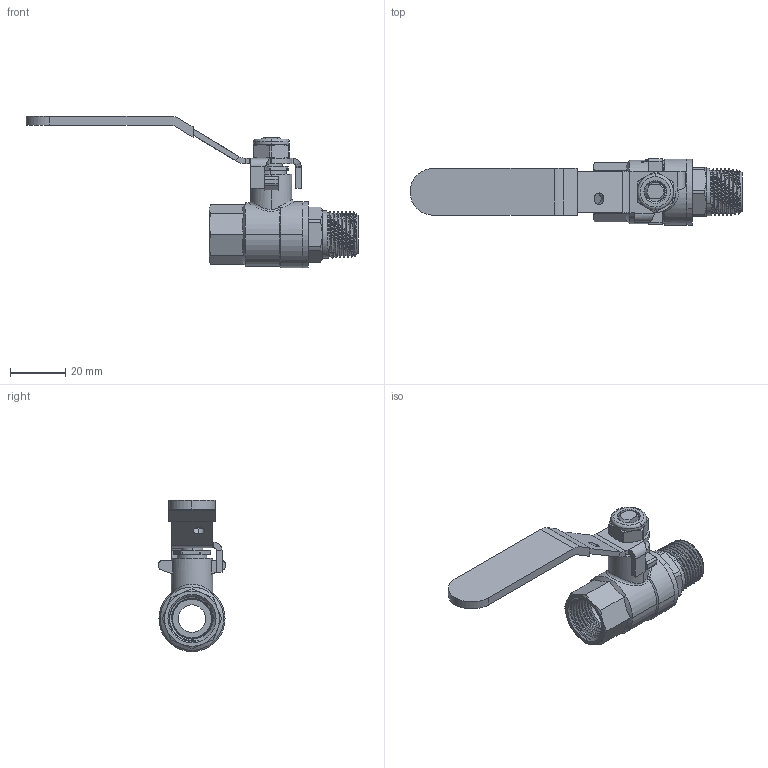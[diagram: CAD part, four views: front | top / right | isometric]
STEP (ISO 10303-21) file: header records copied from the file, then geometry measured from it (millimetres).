
FILE_DESCRIPTION(('Open CASCADE Model'),'2;1');
FILE_NAME('Open CASCADE Shape Model','2021-12-15T11:45:57',('Author'),( 'Open CASCADE'),'Open CASCADE STEP processor 7.3','Open CASCADE 7.3' ,'Unknown');
FILE_SCHEMA(('AUTOMOTIVE_DESIGN { 1 0 10303 214 1 1 1 1 }'));
Length unit declared in the file: millimetre
Products named in the file (12): Open CASCADE STEP translator 7.3 1; Open CASCADE STEP translator 7.3 1.1; Open CASCADE STEP translator 7.3 1.2; Open CASCADE STEP translator 7.3 1.3; Open CASCADE STEP translator 7.3 1.4; Open CASCADE STEP translator 7.3 1.5; Open CASCADE STEP translator 7.3 1.6; Open CASCADE STEP translator 7.3 1.7; Open CASCADE STEP translator 7.3 1.8; Open CASCADE STEP translator 7.3 1.9; Open CASCADE STEP translator 7.3 1.10; Open CASCADE STEP translator 7.3 1.11
Assembly tree (11 placements, depth 2):
  Open CASCADE STEP translator 7.3 1
    Open CASCADE STEP translator 7.3 1.1
    Open CASCADE STEP translator 7.3 1.2
    Open CASCADE STEP translator 7.3 1.3
    Open CASCADE STEP translator 7.3 1.4
    Open CASCADE STEP translator 7.3 1.5
    Open CASCADE STEP translator 7.3 1.6
    Open CASCADE STEP translator 7.3 1.7
    Open CASCADE STEP translator 7.3 1.8
    Open CASCADE STEP translator 7.3 1.9
    Open CASCADE STEP translator 7.3 1.10
    Open CASCADE STEP translator 7.3 1.11
Bounding box: 120.6 x 24 x 54.98 mm (x, y, z)
Volume: 19300 mm3; surface area: 18569 mm2
Topology: 11 solids, 11 shells, 604 faces, 1570 edges, 1014 vertices
Faces by surface type: cylinder 177, bspline 155, plane 151, cone 103, torus 16, sphere 2
Entity records: 117904 total; most frequent: CARTESIAN_POINT 90849, DIRECTION 3613, ORIENTED_EDGE 3136, PCURVE 3136, DEFINITIONAL_REPRESENTATION 3136, B_SPLINE_CURVE_WITH_KNOTS 2099, LINE 1856, VECTOR 1856
